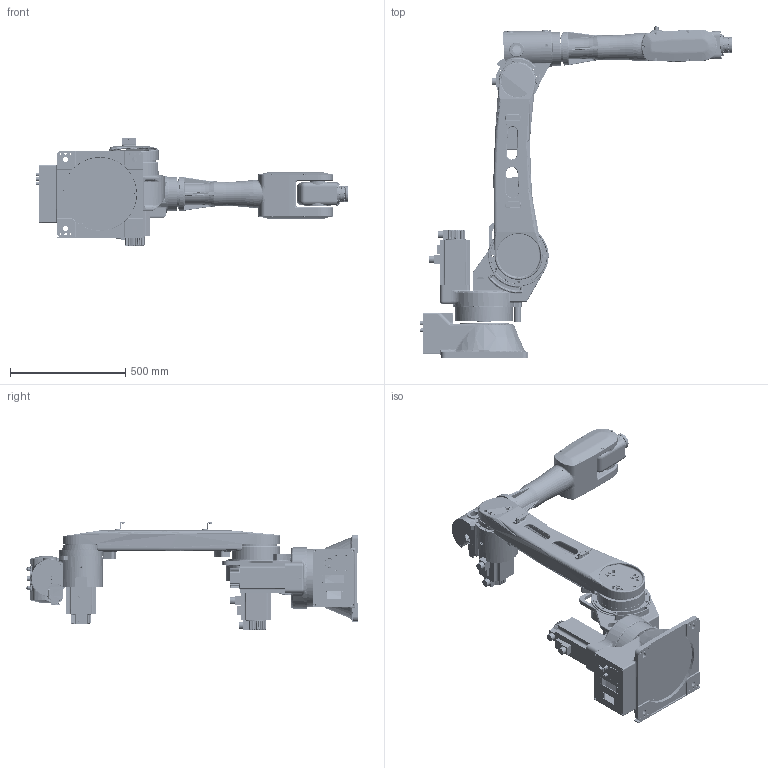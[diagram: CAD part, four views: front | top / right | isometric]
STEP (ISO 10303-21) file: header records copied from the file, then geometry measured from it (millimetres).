
FILE_DESCRIPTION (( 'STEP AP214' ), '1' );
FILE_NAME ('TKB2670.STEP', '2022-12-19T09:21:24', ( '' ), ( '' ), 'SwSTEP 2.0', 'SolidWorks 2018', '' );
FILE_SCHEMA (( 'AUTOMOTIVE_DESIGN' ));
Length unit declared in the file: millimetre
Products named in the file (8): TKB2670ASS5; TKB2670ASS4; TKB2670ASS2.step; TKB2670ASS6; TKB2670ASS3.step; TKB2670; TKB2670ASSoutput; TKB2670ASS1
Assembly tree (7 placements, depth 2):
  TKB2670
    TKB2670ASS1
    TKB2670ASS2.step
    TKB2670ASS3.step
    TKB2670ASS4
    TKB2670ASS5
    TKB2670ASS6
    TKB2670ASSoutput
Bounding box: 1356.87 x 1440.43 x 469.04 mm (x, y, z)
Volume: 2088169.4 mm3; surface area: 4142321.5 mm2
Topology: 20 solids, 181 shells, 8982 faces, 21605 edges, 12618 vertices
Faces by surface type: cylinder 3460, cone 2366, plane 1660, torus 756, bspline 677, sphere 63
Entity records: 406114 total; most frequent: CARTESIAN_POINT 188615, ORIENTED_EDGE 40827, DIRECTION 32051, EDGE_CURVE 21236, AXIS2_PLACEMENT_3D 13536, VERTEX_POINT 12626, B_SPLINE_CURVE_WITH_KNOTS 10515, EDGE_LOOP 9902
